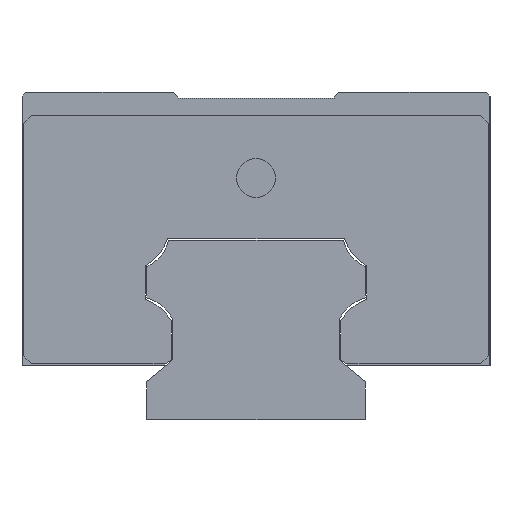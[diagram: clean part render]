
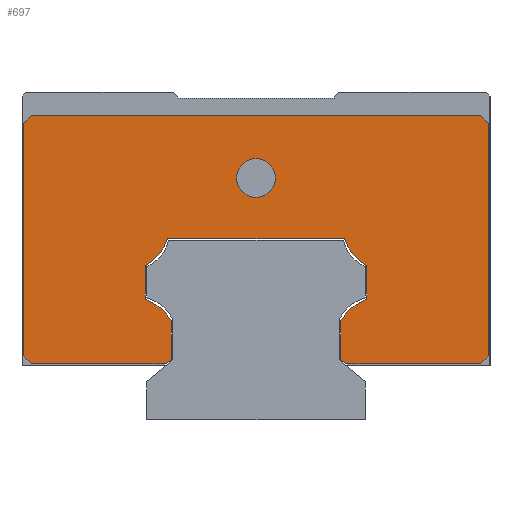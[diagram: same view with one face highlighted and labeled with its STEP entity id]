
A CAD part, left-side view. The second image highlights one B-rep face of the part: STEP entity #697.
In plain terms, the highlighted planar face has unit normal (-1, 0, 0).
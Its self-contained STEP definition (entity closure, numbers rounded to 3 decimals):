
#548=FACE_BOUND('',#979,.T.);
#549=FACE_BOUND('',#980,.T.);
#697=ADVANCED_FACE('',(#548,#549),#813,.F.);
#813=PLANE('',#2605);
#979=EDGE_LOOP('',(#1310));
#980=EDGE_LOOP('',(#1311,#1312,#1313,#1314,#1315,#1316,#1317,#1318,#1319,
#1320,#1321,#1322,#1323,#1324,#1325,#1326,#1327,#1328,#1329,#1330));
#1136=CIRCLE('',#2589,6.95);
#1137=CIRCLE('',#2592,6.95);
#1138=CIRCLE('',#2595,6.95);
#1139=CIRCLE('',#2598,6.95);
#1140=CIRCLE('',#2604,2.5);
#1310=ORIENTED_EDGE('',*,*,#2019,.F.);
#1311=ORIENTED_EDGE('',*,*,#2017,.F.);
#1312=ORIENTED_EDGE('',*,*,#2020,.T.);
#1313=ORIENTED_EDGE('',*,*,#2012,.F.);
#1314=ORIENTED_EDGE('',*,*,#2011,.F.);
#1315=ORIENTED_EDGE('',*,*,#2004,.F.);
#1316=ORIENTED_EDGE('',*,*,#1998,.F.);
#1317=ORIENTED_EDGE('',*,*,#1997,.F.);
#1318=ORIENTED_EDGE('',*,*,#1989,.F.);
#1319=ORIENTED_EDGE('',*,*,#1988,.F.);
#1320=ORIENTED_EDGE('',*,*,#1980,.F.);
#1321=ORIENTED_EDGE('',*,*,#1979,.F.);
#1322=ORIENTED_EDGE('',*,*,#1971,.F.);
#1323=ORIENTED_EDGE('',*,*,#1969,.F.);
#1324=ORIENTED_EDGE('',*,*,#1964,.F.);
#1325=ORIENTED_EDGE('',*,*,#1956,.F.);
#1326=ORIENTED_EDGE('',*,*,#2021,.T.);
#1327=ORIENTED_EDGE('',*,*,#1952,.F.);
#1328=ORIENTED_EDGE('',*,*,#2022,.T.);
#1329=ORIENTED_EDGE('',*,*,#1948,.F.);
#1330=ORIENTED_EDGE('',*,*,#2023,.T.);
#1760=VERTEX_POINT('',#3395);
#1761=VERTEX_POINT('',#3397);
#1764=VERTEX_POINT('',#3404);
#1765=VERTEX_POINT('',#3406);
#1768=VERTEX_POINT('',#3413);
#1769=VERTEX_POINT('',#3415);
#1770=VERTEX_POINT('',#3419);
#1776=VERTEX_POINT('',#3433);
#1781=VERTEX_POINT('',#3445);
#1782=VERTEX_POINT('',#3449);
#1787=VERTEX_POINT('',#3462);
#1788=VERTEX_POINT('',#3466);
#1793=VERTEX_POINT('',#3479);
#1794=VERTEX_POINT('',#3483);
#1799=VERTEX_POINT('',#3496);
#1800=VERTEX_POINT('',#3500);
#1804=VERTEX_POINT('',#3510);
#1810=VERTEX_POINT('',#3524);
#1814=VERTEX_POINT('',#3533);
#1815=VERTEX_POINT('',#3535);
#1816=VERTEX_POINT('',#3539);
#1948=EDGE_CURVE('',#1760,#1761,#2213,.T.);
#1952=EDGE_CURVE('',#1764,#1765,#2217,.T.);
#1956=EDGE_CURVE('',#1768,#1769,#2221,.T.);
#1964=EDGE_CURVE('',#1769,#1770,#2229,.T.);
#1969=EDGE_CURVE('',#1770,#1776,#2234,.T.);
#1971=EDGE_CURVE('',#1776,#1781,#1136,.T.);
#1979=EDGE_CURVE('',#1781,#1782,#2242,.T.);
#1980=EDGE_CURVE('',#1782,#1787,#1137,.T.);
#1988=EDGE_CURVE('',#1787,#1788,#2250,.T.);
#1989=EDGE_CURVE('',#1788,#1793,#1138,.T.);
#1997=EDGE_CURVE('',#1793,#1794,#2258,.T.);
#1998=EDGE_CURVE('',#1794,#1799,#1139,.T.);
#2004=EDGE_CURVE('',#1799,#1800,#2264,.T.);
#2011=EDGE_CURVE('',#1800,#1804,#2271,.T.);
#2012=EDGE_CURVE('',#1804,#1810,#2272,.T.);
#2017=EDGE_CURVE('',#1814,#1815,#2277,.T.);
#2019=EDGE_CURVE('',#1816,#1816,#1140,.T.);
#2020=EDGE_CURVE('',#1814,#1810,#2279,.T.);
#2021=EDGE_CURVE('',#1768,#1765,#2280,.T.);
#2022=EDGE_CURVE('',#1764,#1761,#2281,.T.);
#2023=EDGE_CURVE('',#1760,#1815,#2282,.T.);
#2213=LINE('',#3396,#2397);
#2217=LINE('',#3405,#2401);
#2221=LINE('',#3414,#2405);
#2229=LINE('',#3430,#2413);
#2234=LINE('',#3440,#2418);
#2242=LINE('',#3459,#2426);
#2250=LINE('',#3476,#2434);
#2258=LINE('',#3493,#2442);
#2264=LINE('',#3507,#2448);
#2271=LINE('',#3521,#2455);
#2272=LINE('',#3523,#2456);
#2277=LINE('',#3534,#2461);
#2279=LINE('',#3540,#2463);
#2280=LINE('',#3541,#2464);
#2281=LINE('',#3542,#2465);
#2282=LINE('',#3543,#2466);
#2397=VECTOR('',#2800,1.);
#2401=VECTOR('',#2806,1.);
#2405=VECTOR('',#2812,1.);
#2413=VECTOR('',#2822,1.);
#2418=VECTOR('',#2829,1.);
#2426=VECTOR('',#2845,1.);
#2434=VECTOR('',#2859,1.);
#2442=VECTOR('',#2873,1.);
#2448=VECTOR('',#2885,1.);
#2455=VECTOR('',#2894,1.);
#2456=VECTOR('',#2897,1.);
#2461=VECTOR('',#2904,1.);
#2463=VECTOR('',#2910,1.);
#2464=VECTOR('',#2911,1.);
#2465=VECTOR('',#2912,1.);
#2466=VECTOR('',#2913,1.);
#2589=AXIS2_PLACEMENT_3D('',#3444,#2834,#2835);
#2592=AXIS2_PLACEMENT_3D('',#3461,#2848,#2849);
#2595=AXIS2_PLACEMENT_3D('',#3478,#2862,#2863);
#2598=AXIS2_PLACEMENT_3D('',#3495,#2876,#2877);
#2604=AXIS2_PLACEMENT_3D('',#3538,#2908,#2909);
#2605=AXIS2_PLACEMENT_3D('',#3544,#2914,#2915);
#2800=DIRECTION('',(0.,-1.,0.));
#2806=DIRECTION('',(0.,0.,-1.));
#2812=DIRECTION('',(0.,1.,0.));
#2822=DIRECTION('',(0.,0.766,0.643));
#2829=DIRECTION('',(0.,0.,1.));
#2834=DIRECTION('',(1.,0.,0.));
#2835=DIRECTION('',(0.,1.,0.));
#2845=DIRECTION('',(0.,0.,1.));
#2848=DIRECTION('',(1.,0.,0.));
#2849=DIRECTION('',(0.,1.,0.));
#2859=DIRECTION('',(0.,1.,0.));
#2862=DIRECTION('',(1.,0.,0.));
#2863=DIRECTION('',(0.,-1.,0.));
#2873=DIRECTION('',(0.,0.,-1.));
#2876=DIRECTION('',(1.,0.,0.));
#2877=DIRECTION('',(0.,-1.,0.));
#2885=DIRECTION('',(0.,0.,-1.));
#2894=DIRECTION('',(0.,0.766,-0.643));
#2897=DIRECTION('',(0.,1.,0.));
#2904=DIRECTION('',(0.,0.,1.));
#2908=DIRECTION('',(-1.,0.,0.));
#2909=DIRECTION('',(0.,1.,0.));
#2910=DIRECTION('',(0.,-0.707,-0.707));
#2911=DIRECTION('',(0.,-0.707,0.707));
#2912=DIRECTION('',(0.,0.707,0.707));
#2913=DIRECTION('',(0.,0.707,-0.707));
#2914=DIRECTION('',(1.,0.,0.));
#2915=DIRECTION('',(0.,0.,-1.));
#3395=CARTESIAN_POINT('',(-48.15,28.8,39.));
#3396=CARTESIAN_POINT('',(-48.15,29.8,39.));
#3397=CARTESIAN_POINT('',(-48.15,-28.8,39.));
#3404=CARTESIAN_POINT('',(-48.15,-29.8,38.));
#3405=CARTESIAN_POINT('',(-48.15,-29.8,39.));
#3406=CARTESIAN_POINT('',(-48.15,-29.8,8.2));
#3413=CARTESIAN_POINT('',(-48.15,-28.8,7.2));
#3414=CARTESIAN_POINT('',(-48.15,-29.8,7.2));
#3415=CARTESIAN_POINT('',(-48.15,-11.53,7.2));
#3419=CARTESIAN_POINT('',(-48.15,-10.863,7.76));
#3430=CARTESIAN_POINT('',(-48.15,-11.53,7.2));
#3433=CARTESIAN_POINT('',(-48.15,-10.863,12.685));
#3440=CARTESIAN_POINT('',(-48.15,-10.863,7.76));
#3444=CARTESIAN_POINT('',(-48.15,-16.774,9.029));
#3445=CARTESIAN_POINT('',(-48.15,-14.2,15.485));
#3449=CARTESIAN_POINT('',(-48.15,-14.2,19.736));
#3459=CARTESIAN_POINT('',(-48.15,-14.2,15.485));
#3461=CARTESIAN_POINT('',(-48.15,-17.781,25.692));
#3462=CARTESIAN_POINT('',(-48.15,-11.293,23.2));
#3466=CARTESIAN_POINT('',(-48.15,11.293,23.2));
#3476=CARTESIAN_POINT('',(-48.15,-11.293,23.2));
#3478=CARTESIAN_POINT('',(-48.15,17.781,25.692));
#3479=CARTESIAN_POINT('',(-48.15,14.2,19.736));
#3483=CARTESIAN_POINT('',(-48.15,14.2,15.485));
#3493=CARTESIAN_POINT('',(-48.15,14.2,19.736));
#3495=CARTESIAN_POINT('',(-48.15,16.774,9.029));
#3496=CARTESIAN_POINT('',(-48.15,10.863,12.685));
#3500=CARTESIAN_POINT('',(-48.15,10.863,7.76));
#3507=CARTESIAN_POINT('',(-48.15,10.863,12.685));
#3510=CARTESIAN_POINT('',(-48.15,11.53,7.2));
#3521=CARTESIAN_POINT('',(-48.15,10.863,7.76));
#3523=CARTESIAN_POINT('',(-48.15,11.53,7.2));
#3524=CARTESIAN_POINT('',(-48.15,28.8,7.2));
#3533=CARTESIAN_POINT('',(-48.15,29.8,8.2));
#3534=CARTESIAN_POINT('',(-48.15,29.8,7.2));
#3535=CARTESIAN_POINT('',(-48.15,29.8,38.));
#3538=CARTESIAN_POINT('',(-48.15,0.,31.));
#3539=CARTESIAN_POINT('',(-48.15,2.5,31.));
#3540=CARTESIAN_POINT('',(-48.15,28.8,7.2));
#3541=CARTESIAN_POINT('',(-48.15,-29.8,8.2));
#3542=CARTESIAN_POINT('',(-48.15,-28.8,39.));
#3543=CARTESIAN_POINT('',(-48.15,29.8,38.));
#3544=CARTESIAN_POINT('',(-48.15,-16.774,9.029));
